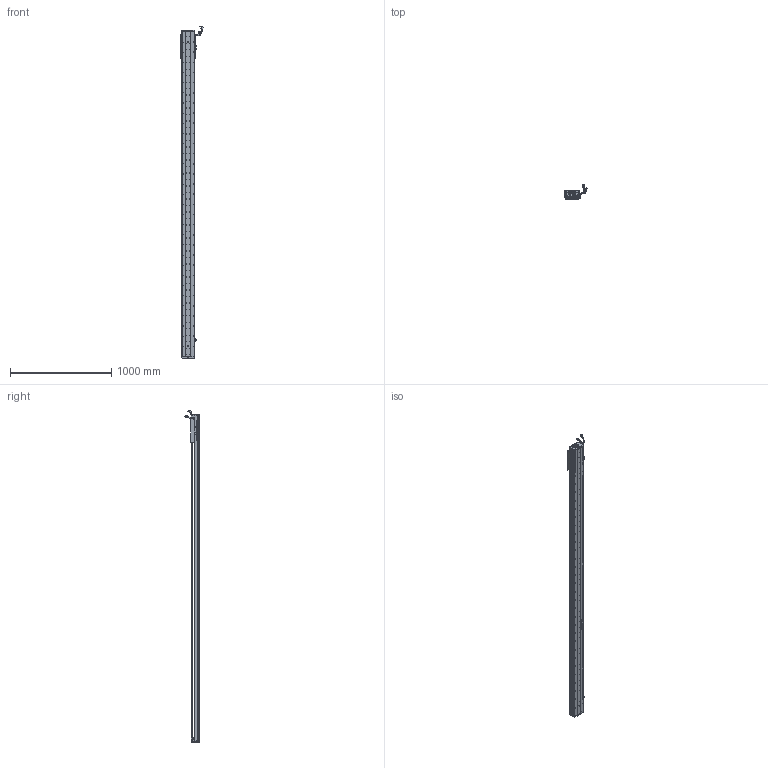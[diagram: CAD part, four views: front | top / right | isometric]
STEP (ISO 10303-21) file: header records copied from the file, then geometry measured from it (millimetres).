
FILE_DESCRIPTION (( 'STEP AP203' ), '1' );
FILE_NAME ('Z3-RY120D-1-L500-B-K.SLDASM_2900.step', '2021-05-17T05:51:48', ( '盈信电脑' ), ( '东莞市道滘镇水果街19号' ), 'SwSTEP 2.0', 'SolidWorks 2016', '' );
FILE_SCHEMA (( 'CONFIG_CONTROL_DESIGN' ));
Length unit declared in the file: millimetre
Products named in the file (37): 140蚥薯蝶輸; RY100FB-遵嫖萇覜茼え; PBU_SHEET; Z3-RY120-500-倰第菁釱_2900; SCREW-M1.7-1; HARNESS-Part-2; HARNESS; SCREW-M1.7; Z-RY120D詩湍狟揤裔; 榋妏寠巭燃_暯_M2_2; 120-Z-臏賑輸盄裔(21遴); PSLH080_PSLF2; SCREW-M1.6-3; Z3-RY120D-1-L500-B-K.SLDASM_2900; LABEL-Part-1; SCALE-Part-2; SCALE-Part-1; SCREW-M1.6; Z3-RY120-L500詩湍100mm遵_2900; Z3-RY120铝滑块（21款）; 672嫖萇羲壽假蚾釱; SHIELDPLATE; SCREW-M1.6-1; 覜茼ん672; HARNESS-Part-1; COVER; COVER-Part-1; LABEL; SCREW-M1.6-2; Z-RY120D詩湍奻揤裔; Z-120詩湍傷裔啣; HOLDER0; SEAL; SEAL-Part-1; 080黍杅芛假蚾釱21遴; SCALE; 140雄赽晤鎢ん堤盄
Assembly tree (43 placements, depth 4):
  Z3-RY120D-1-L500-B-K.SLDASM_2900
    Z3-RY120-500-倰第菁釱_2900
    覜茼ん672  x3
    672嫖萇羲壽假蚾釱  x2
    Z3-RY120铝滑块（21款）
    PSLH080_PSLF2
      SCALE
        SCALE-Part-1
        SCALE-Part-2
      HARNESS
        HARNESS-Part-1
        HARNESS-Part-2
      LABEL
        LABEL-Part-1
      COVER
        COVER-Part-1
      SEAL
        SEAL-Part-1
      榋妏寠巭燃_暯_M2_2
      SHIELDPLATE
      SCREW-M1.7
      SCREW-M1.7-1
      PBU_SHEET
      SCREW-M1.6
      SCREW-M1.6-1
      SCREW-M1.6-2
      SCREW-M1.6-3
      HOLDER0
    080黍杅芛假蚾釱21遴
    120-Z-臏賑輸盄裔(21遴)
    140雄赽晤鎢ん堤盄
    140蚥薯蝶輸  x2
    RY100FB-遵嫖萇覜茼え
    Z-120詩湍傷裔啣  x2
    Z-RY120D詩湍奻揤裔  x2
    Z-RY120D詩湍狟揤裔  x2
    Z3-RY120-L500詩湍100mm遵_2900
Bounding box: 222.83 x 140.94 x 3273.99 mm (x, y, z)
Volume: 7494838.4 mm3; surface area: 2636770.9 mm2
Topology: 38 solids, 38 shells, 3993 faces, 11505 edges, 7252 vertices
Faces by surface type: cylinder 2157, plane 1288, cone 426, torus 69, bspline 53
Entity records: 137186 total; most frequent: CARTESIAN_POINT 42991, ORIENTED_EDGE 19682, DIRECTION 17823, EDGE_CURVE 9841, AXIS2_PLACEMENT_3D 6614, VERTEX_POINT 6372, VECTOR 4595, LINE 4595
